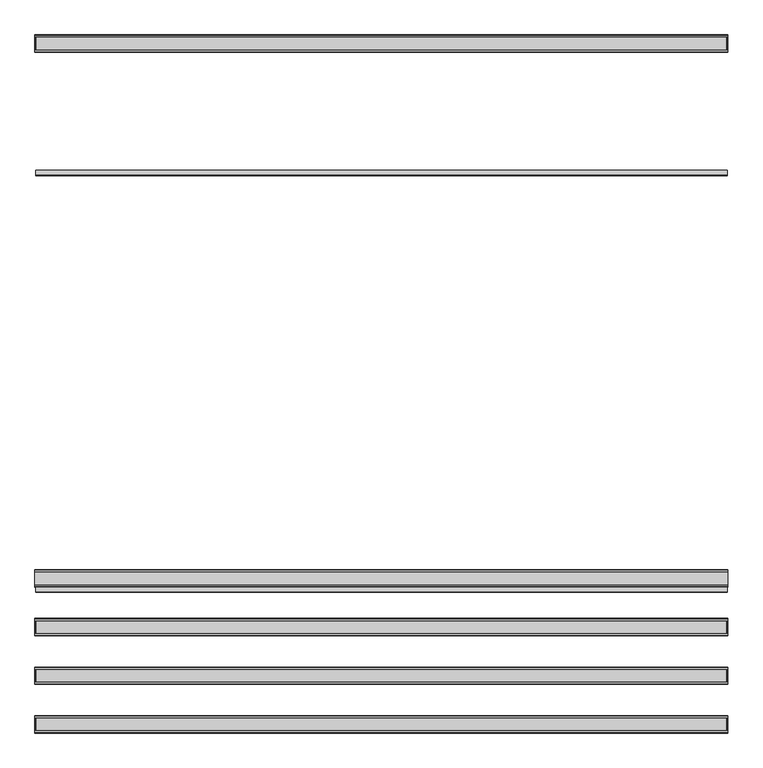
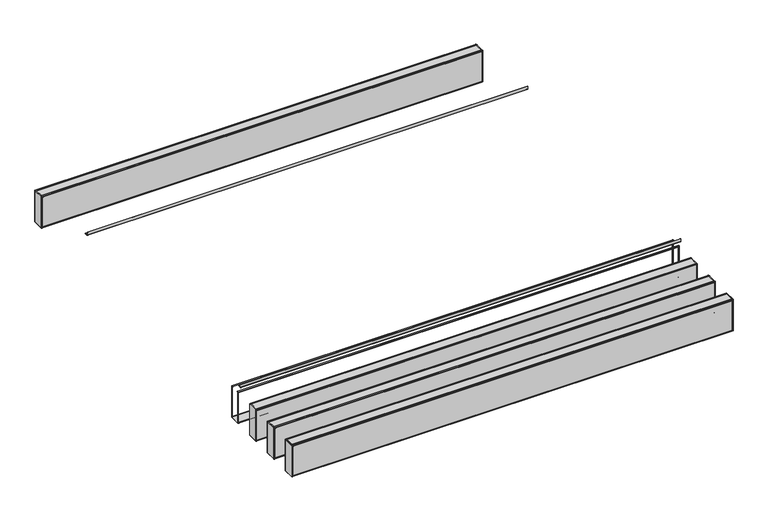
"""IFC4 building model written with IfcOpenShell, lengths in millimetres: proxy geometry, durlum_POLYLAM_KS : durlum_POLYLAM-KS/-S 100 RV-L6."""

from ifc_helpers import new_model, si_unit, point, frame, frame_2d, origin, place, context, project, spatial, polyline, circle_curve, trimmed, segment, composite_curve, outline, extrude, source, transform, mapped, element, save
from ifc_brep_helpers import plane_surface, cylinder_surface, advanced_brep


def generic_models_40e4f3ba(model_context):
    return source(origin(), model_context, "Body", "SolidModel", [
        advanced_brep(
        [(1995.0, -1072.0, 1990.9), (1995.0, -1082.0, 1990.9), (1995.0, -1082.0, 1990.0604454), (1995.0, -1071.0, 1990.0604454), (1995.0, -1071.0, 1691.9), (1995.0, -1169.0, 1691.9), (1995.0, -1169.0, 1989.8155735), (1995.0, -1158.0, 1989.8155735), (1995.0, -1158.0, 1990.9), (1995.0, -1168.0, 1990.9), (1995.0, -1170.0, 1988.9), (1995.0, -1170.0, 1692.9), (1995.0, -1168.0, 1690.9), (1995.0, -1072.0, 1690.9), (1995.0, -1070.0, 1692.9), (1995.0, -1070.0, 1988.9), (-1995.0, -1072.0, 1990.9), (-1995.0, -1070.0, 1988.9), (-1995.0, -1070.0, 1692.9), (-1995.0, -1072.0, 1690.9), (-1995.0, -1168.0, 1690.9), (-1995.0, -1170.0, 1692.9), (-1995.0, -1170.0, 1988.9), (-1995.0, -1168.0, 1990.9), (-1995.0, -1158.0, 1990.9), (-1995.0, -1158.0, 1989.8155735), (-1995.0, -1169.0, 1989.8155735), (-1995.0, -1169.0, 1691.9), (-1995.0, -1071.0, 1691.9), (-1995.0, -1071.0, 1990.0604454), (-1995.0, -1082.0, 1990.0604454), (-1995.0, -1082.0, 1990.9), (-1986.5, -1071.0, 1982.4), (1986.5, -1071.0, 1982.4), (1986.5, -1071.0, 1699.4), (-1986.5, -1071.0, 1699.4), (1986.5, -1169.0, 1982.4), (-1986.5, -1169.0, 1982.4), (-1986.5, -1169.0, 1699.4), (1986.5, -1169.0, 1699.4), (-1986.5, -1170.0, 1982.4), (1986.5, -1170.0, 1982.4), (1986.5, -1170.0, 1699.4), (-1986.5, -1170.0, 1699.4), (1986.5, -1070.0, 1982.4), (-1986.5, -1070.0, 1982.4), (-1986.5, -1070.0, 1699.4), (1986.5, -1070.0, 1699.4)],
        [
            (0, 1),
            (1, 2),
            (2, 3),
            (3, 4),
            (4, 5),
            (5, 6),
            (6, 7),
            (7, 8),
            (8, 9),
            (9, 10, circle_curve(frame((1995.0, -1168.0, 1988.9), z_axis=(1.0, 0.0, 0.0), x_axis=(0.0, 1.0, 0.0)), 2.0)),
            (10, 11),
            (11, 12, circle_curve(frame((1995.0, -1168.0, 1692.9), z_axis=(1.0, 0.0, 0.0), x_axis=(0.0, 1.0, 0.0)), 2.0)),
            (12, 13),
            (13, 14, circle_curve(frame((1995.0, -1072.0, 1692.9), z_axis=(1.0, 0.0, 0.0), x_axis=(0.0, 1.0, 0.0)), 2.0)),
            (14, 15),
            (15, 0, circle_curve(frame((1995.0, -1072.0, 1988.9), z_axis=(1.0, 0.0, 0.0), x_axis=(0.0, 1.0, 0.0)), 2.0)),
            (16, 17, circle_curve(frame((-1995.0, -1072.0, 1988.9), z_axis=(-1.0, 0.0, 0.0), x_axis=(0.0, 1.0, 0.0)), 2.0)),
            (17, 18),
            (18, 19, circle_curve(frame((-1995.0, -1072.0, 1692.9), z_axis=(-1.0, 0.0, 0.0), x_axis=(0.0, 1.0, 0.0)), 2.0)),
            (19, 20),
            (20, 21, circle_curve(frame((-1995.0, -1168.0, 1692.9), z_axis=(-1.0, 0.0, 0.0), x_axis=(0.0, 1.0, 0.0)), 2.0)),
            (21, 22),
            (22, 23, circle_curve(frame((-1995.0, -1168.0, 1988.9), z_axis=(-1.0, 0.0, 0.0), x_axis=(0.0, 1.0, 0.0)), 2.0)),
            (23, 24),
            (24, 25),
            (25, 26),
            (26, 27),
            (27, 28),
            (28, 29),
            (29, 30),
            (30, 31),
            (31, 16),
            (0, 16),
            (31, 1),
            (30, 2),
            (29, 3),
            (28, 4),
            (32, 33),
            (33, 34),
            (34, 35),
            (35, 32),
            (27, 5),
            (26, 6),
            (36, 37),
            (37, 38),
            (38, 39),
            (39, 36),
            (25, 7),
            (24, 8),
            (23, 9),
            (10, 22),
            (21, 11),
            (40, 41),
            (41, 42),
            (42, 43),
            (43, 40),
            (12, 20),
            (19, 13),
            (14, 18),
            (17, 15),
            (44, 45),
            (45, 46),
            (46, 47),
            (47, 44),
            (44, 33),
            (32, 45),
            (36, 41),
            (40, 37),
            (35, 46),
            (43, 38),
            (34, 47),
            (42, 39),
        ],
        [
            plane_surface(frame((1995.0, -1082.0, 1990.9), z_axis=(1.0, 0.0, 0.0), x_axis=(0.0, -1.0, 0.0))),
            plane_surface(frame((-1995.0, -1082.0, 1990.9), z_axis=(-1.0, 0.0, 0.0), x_axis=(0.0, 1.0, 0.0))),
            plane_surface(frame((1995.0, -1072.0, 1990.9), z_axis=(0.0, 0.0, 1.0), x_axis=(-1.0, 0.0, 0.0))),
            plane_surface(frame((1995.0, -1082.0, 1990.9), z_axis=(0.0, -1.0, 0.0), x_axis=(-1.0, 0.0, 0.0))),
            plane_surface(frame((1995.0, -1082.0, 1990.0604454), z_axis=(0.0, 0.0, -1.0), x_axis=(-1.0, 0.0, 0.0))),
            plane_surface(frame((1995.0, -1071.0, 1990.0604454), z_axis=(0.0, -1.0, 0.0), x_axis=(-1.0, 0.0, 0.0))),
            plane_surface(frame((1995.0, -1071.0, 1691.9), z_axis=(0.0, 0.0, 1.0), x_axis=(-1.0, 0.0, 0.0))),
            plane_surface(frame((1995.0, -1169.0, 1691.9), z_axis=(0.0, 1.0, 0.0), x_axis=(-1.0, 0.0, 0.0))),
            plane_surface(frame((1995.0, -1169.0, 1989.8155735), z_axis=(0.0, 0.0, -1.0), x_axis=(-1.0, 0.0, 0.0))),
            plane_surface(frame((1995.0, -1158.0, 1989.8155735), z_axis=(0.0, 1.0, 0.0), x_axis=(-1.0, 0.0, 0.0))),
            plane_surface(frame((1995.0, -1158.0, 1990.9), z_axis=(0.0, 0.0, 1.0), x_axis=(-1.0, 0.0, 0.0))),
            plane_surface(frame((1995.0, -1170.0, 1988.9), z_axis=(0.0, -1.0, 0.0), x_axis=(-1.0, 0.0, 0.0))),
            plane_surface(frame((1995.0, -1168.0, 1690.9), z_axis=(0.0, 0.0, -1.0), x_axis=(-1.0, 0.0, 0.0))),
            plane_surface(frame((1995.0, -1070.0, 1692.9), z_axis=(0.0, 1.0, 0.0), x_axis=(-1.0, 0.0, 0.0))),
            cylinder_surface(frame((-1995.0, -1168.0, 1988.9), z_axis=(1.0, 0.0, 0.0), x_axis=(0.0, 1.0, 0.0)), 2.0),
            cylinder_surface(frame((-1995.0, -1168.0, 1692.9), z_axis=(1.0, 0.0, 0.0), x_axis=(0.0, 1.0, 0.0)), 2.0),
            cylinder_surface(frame((-1995.0, -1072.0, 1692.9), z_axis=(1.0, 0.0, 0.0), x_axis=(0.0, 1.0, 0.0)), 2.0),
            cylinder_surface(frame((-1995.0, -1072.0, 1988.9), z_axis=(1.0, 0.0, 0.0), x_axis=(0.0, 1.0, 0.0)), 2.0),
            plane_surface(frame((1986.5, -1170.0, 1982.4), z_axis=(0.0, 0.0, -1.0), x_axis=(0.0, 1.0, 0.0))),
            plane_surface(frame((-1986.5, -1170.0, 1982.4), z_axis=(1.0, 0.0, 0.0), x_axis=(0.0, 1.0, 0.0))),
            plane_surface(frame((-1986.5, -1170.0, 1699.4), z_axis=(0.0, 0.0, 1.0), x_axis=(0.0, 1.0, 0.0))),
            plane_surface(frame((1986.5, -1170.0, 1699.4), z_axis=(-1.0, 0.0, 0.0), x_axis=(0.0, 1.0, 0.0))),
        ],
        [
            (0, [[1, 2, 3, 4, 5, 6, 7, 8, 9, 10, 11, 12, 13, 14, 15, 16]]),
            (1, [[17, 18, 19, 20, 21, 22, 23, 24, 25, 26, 27, 28, 29, 30, 31, 32]]),
            (2, [[-1, 33, -32, 34]]),
            (3, [[-2, -34, -31, 35]]),
            (4, [[-3, -35, -30, 36]]),
            (5, [[-4, -36, -29, 37], [38, 39, 40, 41]]),
            (6, [[-5, -37, -28, 42]]),
            (7, [[-6, -42, -27, 43], [44, 45, 46, 47]]),
            (8, [[-7, -43, -26, 48]]),
            (9, [[-8, -48, -25, 49]]),
            (10, [[-9, -49, -24, 50]]),
            (11, [[-11, 51, -22, 52], [53, 54, 55, 56]]),
            (12, [[-13, 57, -20, 58]]),
            (13, [[-15, 59, -18, 60], [61, 62, 63, 64]]),
            (14, [[-10, -50, -23, -51]]),
            (15, [[-12, -52, -21, -57]]),
            (16, [[-14, -58, -19, -59]]),
            (17, [[-16, -60, -17, -33]]),
            (18, [[65, -38, 66, -61]]),
            (18, [[67, -53, 68, -44]]),
            (19, [[-66, -41, 69, -62]]),
            (19, [[-68, -56, 70, -45]]),
            (20, [[-69, -40, 71, -63]]),
            (20, [[-70, -55, 72, -46]]),
            (21, [[-65, -64, -71, -39]]),
            (21, [[-67, -47, -72, -54]]),
        ],
    ),
        extrude(outline(polyline([(1993.0, -1351.0), (1995.0, -1351.0), (1995.0, -1449.0), (1993.0, -1449.0), (1993.0, -1351.0)])), frame((0.0, 0.0, 1691.9), z_axis=(0.0, 0.0, 1.0), x_axis=(1.0, 0.0, 0.0)), (0.0, 0.0, 1.0), 298.1604454),
        extrude(outline(polyline([(-1995.0, -1351.0), (-1993.0, -1351.0), (-1993.0, -1449.0), (-1995.0, -1449.0), (-1995.0, -1351.0)])), frame((0.0, 0.0, 1691.9), z_axis=(0.0, 0.0, 1.0), x_axis=(1.0, 0.0, 0.0)), (0.0, 0.0, 1.0), 298.1604454),
        extrude(outline(polyline([(1986.5, -1351.0), (1986.5, -1449.0), (-1986.5, -1449.0), (-1986.5, -1351.0), (1986.5, -1351.0)])), frame((0.0, 0.0, 1691.9), z_axis=(0.0, 0.0, 1.0), x_axis=(1.0, 0.0, 0.0)), (0.0, 0.0, 1.0), 298.0),
        extrude(outline(polyline([(1986.5, -1351.0), (-1986.5, -1351.0), (-1986.5, -1350.0), (1986.5, -1350.0), (1986.5, -1351.0)])), frame((0.0, 0.0, 1699.4), z_axis=(0.0, 0.0, 1.0), x_axis=(1.0, 0.0, 0.0)), (0.0, 0.0, 1.0), 283.0),
        extrude(outline(polyline([(1986.5, -1450.0), (-1986.5, -1450.0), (-1986.5, -1449.0), (1986.5, -1449.0), (1986.5, -1450.0)])), frame((0.0, 0.0, 1699.4), z_axis=(0.0, 0.0, 1.0), x_axis=(1.0, 0.0, 0.0)), (0.0, 0.0, 1.0), 283.0),
        advanced_brep(
        [(1995.0, -1352.0, 1990.9), (1995.0, -1362.0, 1990.9), (1995.0, -1362.0, 1990.0604454), (1995.0, -1351.0, 1990.0604454), (1995.0, -1351.0, 1691.9), (1995.0, -1449.0, 1691.9), (1995.0, -1449.0, 1989.8155735), (1995.0, -1438.0, 1989.8155735), (1995.0, -1438.0, 1990.9), (1995.0, -1448.0, 1990.9), (1995.0, -1450.0, 1988.9), (1995.0, -1450.0, 1692.9), (1995.0, -1448.0, 1690.9), (1995.0, -1352.0, 1690.9), (1995.0, -1350.0, 1692.9), (1995.0, -1350.0, 1988.9), (-1995.0, -1352.0, 1990.9), (-1995.0, -1350.0, 1988.9), (-1995.0, -1350.0, 1692.9), (-1995.0, -1352.0, 1690.9), (-1995.0, -1448.0, 1690.9), (-1995.0, -1450.0, 1692.9), (-1995.0, -1450.0, 1988.9), (-1995.0, -1448.0, 1990.9), (-1995.0, -1438.0, 1990.9), (-1995.0, -1438.0, 1989.8155735), (-1995.0, -1449.0, 1989.8155735), (-1995.0, -1449.0, 1691.9), (-1995.0, -1351.0, 1691.9), (-1995.0, -1351.0, 1990.0604454), (-1995.0, -1362.0, 1990.0604454), (-1995.0, -1362.0, 1990.9), (-1986.5, -1351.0, 1982.4), (1986.5, -1351.0, 1982.4), (1986.5, -1351.0, 1699.4), (-1986.5, -1351.0, 1699.4), (1986.5, -1449.0, 1982.4), (-1986.5, -1449.0, 1982.4), (-1986.5, -1449.0, 1699.4), (1986.5, -1449.0, 1699.4), (-1986.5, -1450.0, 1982.4), (1986.5, -1450.0, 1982.4), (1986.5, -1450.0, 1699.4), (-1986.5, -1450.0, 1699.4), (1986.5, -1350.0, 1982.4), (-1986.5, -1350.0, 1982.4), (-1986.5, -1350.0, 1699.4), (1986.5, -1350.0, 1699.4)],
        [
            (0, 1),
            (1, 2),
            (2, 3),
            (3, 4),
            (4, 5),
            (5, 6),
            (6, 7),
            (7, 8),
            (8, 9),
            (9, 10, circle_curve(frame((1995.0, -1448.0, 1988.9), z_axis=(1.0, 0.0, 0.0), x_axis=(0.0, 1.0, 0.0)), 2.0)),
            (10, 11),
            (11, 12, circle_curve(frame((1995.0, -1448.0, 1692.9), z_axis=(1.0, 0.0, 0.0), x_axis=(0.0, 1.0, 0.0)), 2.0)),
            (12, 13),
            (13, 14, circle_curve(frame((1995.0, -1352.0, 1692.9), z_axis=(1.0, 0.0, 0.0), x_axis=(0.0, 1.0, 0.0)), 2.0)),
            (14, 15),
            (15, 0, circle_curve(frame((1995.0, -1352.0, 1988.9), z_axis=(1.0, 0.0, 0.0), x_axis=(0.0, 1.0, 0.0)), 2.0)),
            (16, 17, circle_curve(frame((-1995.0, -1352.0, 1988.9), z_axis=(-1.0, 0.0, 0.0), x_axis=(0.0, 1.0, 0.0)), 2.0)),
            (17, 18),
            (18, 19, circle_curve(frame((-1995.0, -1352.0, 1692.9), z_axis=(-1.0, 0.0, 0.0), x_axis=(0.0, 1.0, 0.0)), 2.0)),
            (19, 20),
            (20, 21, circle_curve(frame((-1995.0, -1448.0, 1692.9), z_axis=(-1.0, 0.0, 0.0), x_axis=(0.0, 1.0, 0.0)), 2.0)),
            (21, 22),
            (22, 23, circle_curve(frame((-1995.0, -1448.0, 1988.9), z_axis=(-1.0, 0.0, 0.0), x_axis=(0.0, 1.0, 0.0)), 2.0)),
            (23, 24),
            (24, 25),
            (25, 26),
            (26, 27),
            (27, 28),
            (28, 29),
            (29, 30),
            (30, 31),
            (31, 16),
            (0, 16),
            (31, 1),
            (30, 2),
            (29, 3),
            (28, 4),
            (32, 33),
            (33, 34),
            (34, 35),
            (35, 32),
            (27, 5),
            (26, 6),
            (36, 37),
            (37, 38),
            (38, 39),
            (39, 36),
            (25, 7),
            (24, 8),
            (23, 9),
            (10, 22),
            (21, 11),
            (40, 41),
            (41, 42),
            (42, 43),
            (43, 40),
            (12, 20),
            (19, 13),
            (14, 18),
            (17, 15),
            (44, 45),
            (45, 46),
            (46, 47),
            (47, 44),
            (44, 33),
            (32, 45),
            (36, 41),
            (40, 37),
            (35, 46),
            (43, 38),
            (34, 47),
            (42, 39),
        ],
        [
            plane_surface(frame((1995.0, -1362.0, 1990.9), z_axis=(1.0, 0.0, 0.0), x_axis=(0.0, -1.0, 0.0))),
            plane_surface(frame((-1995.0, -1362.0, 1990.9), z_axis=(-1.0, 0.0, 0.0), x_axis=(0.0, 1.0, 0.0))),
            plane_surface(frame((1995.0, -1352.0, 1990.9), z_axis=(0.0, 0.0, 1.0), x_axis=(-1.0, 0.0, 0.0))),
            plane_surface(frame((1995.0, -1362.0, 1990.9), z_axis=(0.0, -1.0, 0.0), x_axis=(-1.0, 0.0, 0.0))),
            plane_surface(frame((1995.0, -1362.0, 1990.0604454), z_axis=(0.0, 0.0, -1.0), x_axis=(-1.0, 0.0, 0.0))),
            plane_surface(frame((1995.0, -1351.0, 1990.0604454), z_axis=(0.0, -1.0, 0.0), x_axis=(-1.0, 0.0, 0.0))),
            plane_surface(frame((1995.0, -1351.0, 1691.9), z_axis=(0.0, 0.0, 1.0), x_axis=(-1.0, 0.0, 0.0))),
            plane_surface(frame((1995.0, -1449.0, 1691.9), z_axis=(0.0, 1.0, 0.0), x_axis=(-1.0, 0.0, 0.0))),
            plane_surface(frame((1995.0, -1449.0, 1989.8155735), z_axis=(0.0, 0.0, -1.0), x_axis=(-1.0, 0.0, 0.0))),
            plane_surface(frame((1995.0, -1438.0, 1989.8155735), z_axis=(0.0, 1.0, 0.0), x_axis=(-1.0, 0.0, 0.0))),
            plane_surface(frame((1995.0, -1438.0, 1990.9), z_axis=(0.0, 0.0, 1.0), x_axis=(-1.0, 0.0, 0.0))),
            plane_surface(frame((1995.0, -1450.0, 1988.9), z_axis=(0.0, -1.0, 0.0), x_axis=(-1.0, 0.0, 0.0))),
            plane_surface(frame((1995.0, -1448.0, 1690.9), z_axis=(0.0, 0.0, -1.0), x_axis=(-1.0, 0.0, 0.0))),
            plane_surface(frame((1995.0, -1350.0, 1692.9), z_axis=(0.0, 1.0, 0.0), x_axis=(-1.0, 0.0, 0.0))),
            cylinder_surface(frame((-1995.0, -1448.0, 1988.9), z_axis=(1.0, 0.0, 0.0), x_axis=(0.0, 1.0, 0.0)), 2.0),
            cylinder_surface(frame((-1995.0, -1448.0, 1692.9), z_axis=(1.0, 0.0, 0.0), x_axis=(0.0, 1.0, 0.0)), 2.0),
            cylinder_surface(frame((-1995.0, -1352.0, 1692.9), z_axis=(1.0, 0.0, 0.0), x_axis=(0.0, 1.0, 0.0)), 2.0),
            cylinder_surface(frame((-1995.0, -1352.0, 1988.9), z_axis=(1.0, 0.0, 0.0), x_axis=(0.0, 1.0, 0.0)), 2.0),
            plane_surface(frame((1986.5, -1450.0, 1982.4), z_axis=(0.0, 0.0, -1.0), x_axis=(0.0, 1.0, 0.0))),
            plane_surface(frame((-1986.5, -1450.0, 1982.4), z_axis=(1.0, 0.0, 0.0), x_axis=(0.0, 1.0, 0.0))),
            plane_surface(frame((-1986.5, -1450.0, 1699.4), z_axis=(0.0, 0.0, 1.0), x_axis=(0.0, 1.0, 0.0))),
            plane_surface(frame((1986.5, -1450.0, 1699.4), z_axis=(-1.0, 0.0, 0.0), x_axis=(0.0, 1.0, 0.0))),
        ],
        [
            (0, [[1, 2, 3, 4, 5, 6, 7, 8, 9, 10, 11, 12, 13, 14, 15, 16]]),
            (1, [[17, 18, 19, 20, 21, 22, 23, 24, 25, 26, 27, 28, 29, 30, 31, 32]]),
            (2, [[-1, 33, -32, 34]]),
            (3, [[-2, -34, -31, 35]]),
            (4, [[-3, -35, -30, 36]]),
            (5, [[-4, -36, -29, 37], [38, 39, 40, 41]]),
            (6, [[-5, -37, -28, 42]]),
            (7, [[-6, -42, -27, 43], [44, 45, 46, 47]]),
            (8, [[-7, -43, -26, 48]]),
            (9, [[-8, -48, -25, 49]]),
            (10, [[-9, -49, -24, 50]]),
            (11, [[-11, 51, -22, 52], [53, 54, 55, 56]]),
            (12, [[-13, 57, -20, 58]]),
            (13, [[-15, 59, -18, 60], [61, 62, 63, 64]]),
            (14, [[-10, -50, -23, -51]]),
            (15, [[-12, -52, -21, -57]]),
            (16, [[-14, -58, -19, -59]]),
            (17, [[-16, -60, -17, -33]]),
            (18, [[65, -38, 66, -61]]),
            (18, [[67, -53, 68, -44]]),
            (19, [[-66, -41, 69, -62]]),
            (19, [[-68, -56, 70, -45]]),
            (20, [[-69, -40, 71, -63]]),
            (20, [[-70, -55, 72, -46]]),
            (21, [[-65, -64, -71, -39]]),
            (21, [[-67, -47, -72, -54]]),
        ],
    ),
        extrude(outline(polyline([(1993.0, -1631.0), (1995.0, -1631.0), (1995.0, -1729.0), (1993.0, -1729.0), (1993.0, -1631.0)])), frame((0.0, 0.0, 1691.9), z_axis=(0.0, 0.0, 1.0), x_axis=(1.0, 0.0, 0.0)), (0.0, 0.0, 1.0), 298.1604454),
        extrude(outline(polyline([(-1995.0, -1631.0), (-1993.0, -1631.0), (-1993.0, -1729.0), (-1995.0, -1729.0), (-1995.0, -1631.0)])), frame((0.0, 0.0, 1691.9), z_axis=(0.0, 0.0, 1.0), x_axis=(1.0, 0.0, 0.0)), (0.0, 0.0, 1.0), 298.1604454),
        extrude(outline(polyline([(1986.5, -1631.0), (1986.5, -1729.0), (-1986.5, -1729.0), (-1986.5, -1631.0), (1986.5, -1631.0)])), frame((0.0, 0.0, 1691.9), z_axis=(0.0, 0.0, 1.0), x_axis=(1.0, 0.0, 0.0)), (0.0, 0.0, 1.0), 298.0),
        extrude(outline(polyline([(1986.5, -1631.0), (-1986.5, -1631.0), (-1986.5, -1630.0), (1986.5, -1630.0), (1986.5, -1631.0)])), frame((0.0, 0.0, 1699.4), z_axis=(0.0, 0.0, 1.0), x_axis=(1.0, 0.0, 0.0)), (0.0, 0.0, 1.0), 283.0),
        extrude(outline(polyline([(1986.5, -1730.0), (-1986.5, -1730.0), (-1986.5, -1729.0), (1986.5, -1729.0), (1986.5, -1730.0)])), frame((0.0, 0.0, 1699.4), z_axis=(0.0, 0.0, 1.0), x_axis=(1.0, 0.0, 0.0)), (0.0, 0.0, 1.0), 283.0),
        advanced_brep(
        [(1995.0, -1632.0, 1990.9), (1995.0, -1642.0, 1990.9), (1995.0, -1642.0, 1990.0604454), (1995.0, -1631.0, 1990.0604454), (1995.0, -1631.0, 1691.9), (1995.0, -1729.0, 1691.9), (1995.0, -1729.0, 1989.8155735), (1995.0, -1718.0, 1989.8155735), (1995.0, -1718.0, 1990.9), (1995.0, -1728.0, 1990.9), (1995.0, -1730.0, 1988.9), (1995.0, -1730.0, 1692.9), (1995.0, -1728.0, 1690.9), (1995.0, -1632.0, 1690.9), (1995.0, -1630.0, 1692.9), (1995.0, -1630.0, 1988.9), (-1995.0, -1632.0, 1990.9), (-1995.0, -1630.0, 1988.9), (-1995.0, -1630.0, 1692.9), (-1995.0, -1632.0, 1690.9), (-1995.0, -1728.0, 1690.9), (-1995.0, -1730.0, 1692.9), (-1995.0, -1730.0, 1988.9), (-1995.0, -1728.0, 1990.9), (-1995.0, -1718.0, 1990.9), (-1995.0, -1718.0, 1989.8155735), (-1995.0, -1729.0, 1989.8155735), (-1995.0, -1729.0, 1691.9), (-1995.0, -1631.0, 1691.9), (-1995.0, -1631.0, 1990.0604454), (-1995.0, -1642.0, 1990.0604454), (-1995.0, -1642.0, 1990.9), (-1986.5, -1631.0, 1982.4), (1986.5, -1631.0, 1982.4), (1986.5, -1631.0, 1699.4), (-1986.5, -1631.0, 1699.4), (1986.5, -1729.0, 1982.4), (-1986.5, -1729.0, 1982.4), (-1986.5, -1729.0, 1699.4), (1986.5, -1729.0, 1699.4), (-1986.5, -1730.0, 1982.4), (1986.5, -1730.0, 1982.4), (1986.5, -1730.0, 1699.4), (-1986.5, -1730.0, 1699.4), (1986.5, -1630.0, 1982.4), (-1986.5, -1630.0, 1982.4), (-1986.5, -1630.0, 1699.4), (1986.5, -1630.0, 1699.4)],
        [
            (0, 1),
            (1, 2),
            (2, 3),
            (3, 4),
            (4, 5),
            (5, 6),
            (6, 7),
            (7, 8),
            (8, 9),
            (9, 10, circle_curve(frame((1995.0, -1728.0, 1988.9), z_axis=(1.0, 0.0, 0.0), x_axis=(0.0, 1.0, 0.0)), 2.0)),
            (10, 11),
            (11, 12, circle_curve(frame((1995.0, -1728.0, 1692.9), z_axis=(1.0, 0.0, 0.0), x_axis=(0.0, 1.0, 0.0)), 2.0)),
            (12, 13),
            (13, 14, circle_curve(frame((1995.0, -1632.0, 1692.9), z_axis=(1.0, 0.0, 0.0), x_axis=(0.0, 1.0, 0.0)), 2.0)),
            (14, 15),
            (15, 0, circle_curve(frame((1995.0, -1632.0, 1988.9), z_axis=(1.0, 0.0, 0.0), x_axis=(0.0, 1.0, 0.0)), 2.0)),
            (16, 17, circle_curve(frame((-1995.0, -1632.0, 1988.9), z_axis=(-1.0, 0.0, 0.0), x_axis=(0.0, 1.0, 0.0)), 2.0)),
            (17, 18),
            (18, 19, circle_curve(frame((-1995.0, -1632.0, 1692.9), z_axis=(-1.0, 0.0, 0.0), x_axis=(0.0, 1.0, 0.0)), 2.0)),
            (19, 20),
            (20, 21, circle_curve(frame((-1995.0, -1728.0, 1692.9), z_axis=(-1.0, 0.0, 0.0), x_axis=(0.0, 1.0, 0.0)), 2.0)),
            (21, 22),
            (22, 23, circle_curve(frame((-1995.0, -1728.0, 1988.9), z_axis=(-1.0, 0.0, 0.0), x_axis=(0.0, 1.0, 0.0)), 2.0)),
            (23, 24),
            (24, 25),
            (25, 26),
            (26, 27),
            (27, 28),
            (28, 29),
            (29, 30),
            (30, 31),
            (31, 16),
            (0, 16),
            (31, 1),
            (30, 2),
            (29, 3),
            (28, 4),
            (32, 33),
            (33, 34),
            (34, 35),
            (35, 32),
            (27, 5),
            (26, 6),
            (36, 37),
            (37, 38),
            (38, 39),
            (39, 36),
            (25, 7),
            (24, 8),
            (23, 9),
            (10, 22),
            (21, 11),
            (40, 41),
            (41, 42),
            (42, 43),
            (43, 40),
            (12, 20),
            (19, 13),
            (14, 18),
            (17, 15),
            (44, 45),
            (45, 46),
            (46, 47),
            (47, 44),
            (44, 33),
            (32, 45),
            (36, 41),
            (40, 37),
            (35, 46),
            (43, 38),
            (34, 47),
            (42, 39),
        ],
        [
            plane_surface(frame((1995.0, -1642.0, 1990.9), z_axis=(1.0, 0.0, 0.0), x_axis=(0.0, -1.0, 0.0))),
            plane_surface(frame((-1995.0, -1642.0, 1990.9), z_axis=(-1.0, 0.0, 0.0), x_axis=(0.0, 1.0, 0.0))),
            plane_surface(frame((1995.0, -1632.0, 1990.9), z_axis=(0.0, 0.0, 1.0), x_axis=(-1.0, 0.0, 0.0))),
            plane_surface(frame((1995.0, -1642.0, 1990.9), z_axis=(0.0, -1.0, 0.0), x_axis=(-1.0, 0.0, 0.0))),
            plane_surface(frame((1995.0, -1642.0, 1990.0604454), z_axis=(0.0, 0.0, -1.0), x_axis=(-1.0, 0.0, 0.0))),
            plane_surface(frame((1995.0, -1631.0, 1990.0604454), z_axis=(0.0, -1.0, 0.0), x_axis=(-1.0, 0.0, 0.0))),
            plane_surface(frame((1995.0, -1631.0, 1691.9), z_axis=(0.0, 0.0, 1.0), x_axis=(-1.0, 0.0, 0.0))),
            plane_surface(frame((1995.0, -1729.0, 1691.9), z_axis=(0.0, 1.0, 0.0), x_axis=(-1.0, 0.0, 0.0))),
            plane_surface(frame((1995.0, -1729.0, 1989.8155735), z_axis=(0.0, 0.0, -1.0), x_axis=(-1.0, 0.0, 0.0))),
            plane_surface(frame((1995.0, -1718.0, 1989.8155735), z_axis=(0.0, 1.0, 0.0), x_axis=(-1.0, 0.0, 0.0))),
            plane_surface(frame((1995.0, -1718.0, 1990.9), z_axis=(0.0, 0.0, 1.0), x_axis=(-1.0, 0.0, 0.0))),
            plane_surface(frame((1995.0, -1730.0, 1988.9), z_axis=(0.0, -1.0, 0.0), x_axis=(-1.0, 0.0, 0.0))),
            plane_surface(frame((1995.0, -1728.0, 1690.9), z_axis=(0.0, 0.0, -1.0), x_axis=(-1.0, 0.0, 0.0))),
            plane_surface(frame((1995.0, -1630.0, 1692.9), z_axis=(0.0, 1.0, 0.0), x_axis=(-1.0, 0.0, 0.0))),
            cylinder_surface(frame((-1995.0, -1728.0, 1988.9), z_axis=(1.0, 0.0, 0.0), x_axis=(0.0, 1.0, 0.0)), 2.0),
            cylinder_surface(frame((-1995.0, -1728.0, 1692.9), z_axis=(1.0, 0.0, 0.0), x_axis=(0.0, 1.0, 0.0)), 2.0),
            cylinder_surface(frame((-1995.0, -1632.0, 1692.9), z_axis=(1.0, 0.0, 0.0), x_axis=(0.0, 1.0, 0.0)), 2.0),
            cylinder_surface(frame((-1995.0, -1632.0, 1988.9), z_axis=(1.0, 0.0, 0.0), x_axis=(0.0, 1.0, 0.0)), 2.0),
            plane_surface(frame((1986.5, -1730.0, 1982.4), z_axis=(0.0, 0.0, -1.0), x_axis=(0.0, 1.0, 0.0))),
            plane_surface(frame((-1986.5, -1730.0, 1982.4), z_axis=(1.0, 0.0, 0.0), x_axis=(0.0, 1.0, 0.0))),
            plane_surface(frame((-1986.5, -1730.0, 1699.4), z_axis=(0.0, 0.0, 1.0), x_axis=(0.0, 1.0, 0.0))),
            plane_surface(frame((1986.5, -1730.0, 1699.4), z_axis=(-1.0, 0.0, 0.0), x_axis=(0.0, 1.0, 0.0))),
        ],
        [
            (0, [[1, 2, 3, 4, 5, 6, 7, 8, 9, 10, 11, 12, 13, 14, 15, 16]]),
            (1, [[17, 18, 19, 20, 21, 22, 23, 24, 25, 26, 27, 28, 29, 30, 31, 32]]),
            (2, [[-1, 33, -32, 34]]),
            (3, [[-2, -34, -31, 35]]),
            (4, [[-3, -35, -30, 36]]),
            (5, [[-4, -36, -29, 37], [38, 39, 40, 41]]),
            (6, [[-5, -37, -28, 42]]),
            (7, [[-6, -42, -27, 43], [44, 45, 46, 47]]),
            (8, [[-7, -43, -26, 48]]),
            (9, [[-8, -48, -25, 49]]),
            (10, [[-9, -49, -24, 50]]),
            (11, [[-11, 51, -22, 52], [53, 54, 55, 56]]),
            (12, [[-13, 57, -20, 58]]),
            (13, [[-15, 59, -18, 60], [61, 62, 63, 64]]),
            (14, [[-10, -50, -23, -51]]),
            (15, [[-12, -52, -21, -57]]),
            (16, [[-14, -58, -19, -59]]),
            (17, [[-16, -60, -17, -33]]),
            (18, [[65, -38, 66, -61]]),
            (18, [[67, -53, 68, -44]]),
            (19, [[-66, -41, 69, -62]]),
            (19, [[-68, -56, 70, -45]]),
            (20, [[-69, -40, 71, -63]]),
            (20, [[-70, -55, 72, -46]]),
            (21, [[-65, -64, -71, -39]]),
            (21, [[-67, -47, -72, -54]]),
        ],
    ),
        extrude(outline(polyline([(1993.0, 2009.0), (1995.0, 2009.0), (1995.0, 1911.0), (1993.0, 1911.0), (1993.0, 2009.0)])), frame((0.0, 0.0, 1691.9), z_axis=(0.0, 0.0, 1.0), x_axis=(1.0, 0.0, 0.0)), (0.0, 0.0, 1.0), 298.1604454),
        extrude(outline(polyline([(-1995.0, 2009.0), (-1993.0, 2009.0), (-1993.0, 1911.0), (-1995.0, 1911.0), (-1995.0, 2009.0)])), frame((0.0, 0.0, 1691.9), z_axis=(0.0, 0.0, 1.0), x_axis=(1.0, 0.0, 0.0)), (0.0, 0.0, 1.0), 298.1604454),
        extrude(outline(polyline([(1986.5, 2009.0), (1986.5, 1911.0), (-1986.5, 1911.0), (-1986.5, 2009.0), (1986.5, 2009.0)])), frame((0.0, 0.0, 1691.9), z_axis=(0.0, 0.0, 1.0), x_axis=(1.0, 0.0, 0.0)), (0.0, 0.0, 1.0), 298.0),
        extrude(outline(polyline([(1986.5, 2009.0), (-1986.5, 2009.0), (-1986.5, 2010.0), (1986.5, 2010.0), (1986.5, 2009.0)])), frame((0.0, 0.0, 1699.4), z_axis=(0.0, 0.0, 1.0), x_axis=(1.0, 0.0, 0.0)), (0.0, 0.0, 1.0), 283.0),
        extrude(outline(polyline([(1986.5, 1910.0), (-1986.5, 1910.0), (-1986.5, 1911.0), (1986.5, 1911.0), (1986.5, 1910.0)])), frame((0.0, 0.0, 1699.4), z_axis=(0.0, 0.0, 1.0), x_axis=(1.0, 0.0, 0.0)), (0.0, 0.0, 1.0), 283.0),
        advanced_brep(
        [(1995.0, 2008.0, 1990.9), (1995.0, 1998.0, 1990.9), (1995.0, 1998.0, 1990.0604454), (1995.0, 2009.0, 1990.0604454), (1995.0, 2009.0, 1691.9), (1995.0, 1911.0, 1691.9), (1995.0, 1911.0, 1989.8155735), (1995.0, 1922.0, 1989.8155735), (1995.0, 1922.0, 1990.9), (1995.0, 1912.0, 1990.9), (1995.0, 1910.0, 1988.9), (1995.0, 1910.0, 1692.9), (1995.0, 1912.0, 1690.9), (1995.0, 2008.0, 1690.9), (1995.0, 2010.0, 1692.9), (1995.0, 2010.0, 1988.9), (-1995.0, 2008.0, 1990.9), (-1995.0, 2010.0, 1988.9), (-1995.0, 2010.0, 1692.9), (-1995.0, 2008.0, 1690.9), (-1995.0, 1912.0, 1690.9), (-1995.0, 1910.0, 1692.9), (-1995.0, 1910.0, 1988.9), (-1995.0, 1912.0, 1990.9), (-1995.0, 1922.0, 1990.9), (-1995.0, 1922.0, 1989.8155735), (-1995.0, 1911.0, 1989.8155735), (-1995.0, 1911.0, 1691.9), (-1995.0, 2009.0, 1691.9), (-1995.0, 2009.0, 1990.0604454), (-1995.0, 1998.0, 1990.0604454), (-1995.0, 1998.0, 1990.9), (-1986.5, 2009.0, 1982.4), (1986.5, 2009.0, 1982.4), (1986.5, 2009.0, 1699.4), (-1986.5, 2009.0, 1699.4), (1986.5, 1911.0, 1982.4), (-1986.5, 1911.0, 1982.4), (-1986.5, 1911.0, 1699.4), (1986.5, 1911.0, 1699.4), (-1986.5, 1910.0, 1982.4), (1986.5, 1910.0, 1982.4), (1986.5, 1910.0, 1699.4), (-1986.5, 1910.0, 1699.4), (1986.5, 2010.0, 1982.4), (-1986.5, 2010.0, 1982.4), (-1986.5, 2010.0, 1699.4), (1986.5, 2010.0, 1699.4)],
        [
            (0, 1),
            (1, 2),
            (2, 3),
            (3, 4),
            (4, 5),
            (5, 6),
            (6, 7),
            (7, 8),
            (8, 9),
            (9, 10, circle_curve(frame((1995.0, 1912.0, 1988.9), z_axis=(1.0, 0.0, 0.0), x_axis=(0.0, 1.0, 0.0)), 2.0)),
            (10, 11),
            (11, 12, circle_curve(frame((1995.0, 1912.0, 1692.9), z_axis=(1.0, 0.0, 0.0), x_axis=(0.0, 1.0, 0.0)), 2.0)),
            (12, 13),
            (13, 14, circle_curve(frame((1995.0, 2008.0, 1692.9), z_axis=(1.0, 0.0, 0.0), x_axis=(0.0, 1.0, 0.0)), 2.0)),
            (14, 15),
            (15, 0, circle_curve(frame((1995.0, 2008.0, 1988.9), z_axis=(1.0, 0.0, 0.0), x_axis=(0.0, 1.0, 0.0)), 2.0)),
            (16, 17, circle_curve(frame((-1995.0, 2008.0, 1988.9), z_axis=(-1.0, 0.0, 0.0), x_axis=(0.0, 1.0, 0.0)), 2.0)),
            (17, 18),
            (18, 19, circle_curve(frame((-1995.0, 2008.0, 1692.9), z_axis=(-1.0, 0.0, 0.0), x_axis=(0.0, 1.0, 0.0)), 2.0)),
            (19, 20),
            (20, 21, circle_curve(frame((-1995.0, 1912.0, 1692.9), z_axis=(-1.0, 0.0, 0.0), x_axis=(0.0, 1.0, 0.0)), 2.0)),
            (21, 22),
            (22, 23, circle_curve(frame((-1995.0, 1912.0, 1988.9), z_axis=(-1.0, 0.0, 0.0), x_axis=(0.0, 1.0, 0.0)), 2.0)),
            (23, 24),
            (24, 25),
            (25, 26),
            (26, 27),
            (27, 28),
            (28, 29),
            (29, 30),
            (30, 31),
            (31, 16),
            (0, 16),
            (31, 1),
            (30, 2),
            (29, 3),
            (28, 4),
            (32, 33),
            (33, 34),
            (34, 35),
            (35, 32),
            (27, 5),
            (26, 6),
            (36, 37),
            (37, 38),
            (38, 39),
            (39, 36),
            (25, 7),
            (24, 8),
            (23, 9),
            (10, 22),
            (21, 11),
            (40, 41),
            (41, 42),
            (42, 43),
            (43, 40),
            (12, 20),
            (19, 13),
            (14, 18),
            (17, 15),
            (44, 45),
            (45, 46),
            (46, 47),
            (47, 44),
            (44, 33),
            (32, 45),
            (36, 41),
            (40, 37),
            (35, 46),
            (43, 38),
            (34, 47),
            (42, 39),
        ],
        [
            plane_surface(frame((1995.0, 1998.0, 1990.9), z_axis=(1.0, 0.0, 0.0), x_axis=(0.0, -1.0, 0.0))),
            plane_surface(frame((-1995.0, 1998.0, 1990.9), z_axis=(-1.0, 0.0, 0.0), x_axis=(0.0, 1.0, 0.0))),
            plane_surface(frame((1995.0, 2008.0, 1990.9), z_axis=(0.0, 0.0, 1.0), x_axis=(-1.0, 0.0, 0.0))),
            plane_surface(frame((1995.0, 1998.0, 1990.9), z_axis=(0.0, -1.0, 0.0), x_axis=(-1.0, 0.0, 0.0))),
            plane_surface(frame((1995.0, 1998.0, 1990.0604454), z_axis=(0.0, 0.0, -1.0), x_axis=(-1.0, 0.0, 0.0))),
            plane_surface(frame((1995.0, 2009.0, 1990.0604454), z_axis=(0.0, -1.0, 0.0), x_axis=(-1.0, 0.0, 0.0))),
            plane_surface(frame((1995.0, 2009.0, 1691.9), z_axis=(0.0, 0.0, 1.0), x_axis=(-1.0, 0.0, 0.0))),
            plane_surface(frame((1995.0, 1911.0, 1691.9), z_axis=(0.0, 1.0, 0.0), x_axis=(-1.0, 0.0, 0.0))),
            plane_surface(frame((1995.0, 1911.0, 1989.8155735), z_axis=(0.0, 0.0, -1.0), x_axis=(-1.0, 0.0, 0.0))),
            plane_surface(frame((1995.0, 1922.0, 1989.8155735), z_axis=(0.0, 1.0, 0.0), x_axis=(-1.0, 0.0, 0.0))),
            plane_surface(frame((1995.0, 1922.0, 1990.9), z_axis=(0.0, 0.0, 1.0), x_axis=(-1.0, 0.0, 0.0))),
            plane_surface(frame((1995.0, 1910.0, 1988.9), z_axis=(0.0, -1.0, 0.0), x_axis=(-1.0, 0.0, 0.0))),
            plane_surface(frame((1995.0, 1912.0, 1690.9), z_axis=(0.0, 0.0, -1.0), x_axis=(-1.0, 0.0, 0.0))),
            plane_surface(frame((1995.0, 2010.0, 1692.9), z_axis=(0.0, 1.0, 0.0), x_axis=(-1.0, 0.0, 0.0))),
            cylinder_surface(frame((-1995.0, 1912.0, 1988.9), z_axis=(1.0, 0.0, 0.0), x_axis=(0.0, 1.0, 0.0)), 2.0),
            cylinder_surface(frame((-1995.0, 1912.0, 1692.9), z_axis=(1.0, 0.0, 0.0), x_axis=(0.0, 1.0, 0.0)), 2.0),
            cylinder_surface(frame((-1995.0, 2008.0, 1692.9), z_axis=(1.0, 0.0, 0.0), x_axis=(0.0, 1.0, 0.0)), 2.0),
            cylinder_surface(frame((-1995.0, 2008.0, 1988.9), z_axis=(1.0, 0.0, 0.0), x_axis=(0.0, 1.0, 0.0)), 2.0),
            plane_surface(frame((1986.5, 1910.0, 1982.4), z_axis=(0.0, 0.0, -1.0), x_axis=(0.0, 1.0, 0.0))),
            plane_surface(frame((-1986.5, 1910.0, 1982.4), z_axis=(1.0, 0.0, 0.0), x_axis=(0.0, 1.0, 0.0))),
            plane_surface(frame((-1986.5, 1910.0, 1699.4), z_axis=(0.0, 0.0, 1.0), x_axis=(0.0, 1.0, 0.0))),
            plane_surface(frame((1986.5, 1910.0, 1699.4), z_axis=(-1.0, 0.0, 0.0), x_axis=(0.0, 1.0, 0.0))),
        ],
        [
            (0, [[1, 2, 3, 4, 5, 6, 7, 8, 9, 10, 11, 12, 13, 14, 15, 16]]),
            (1, [[17, 18, 19, 20, 21, 22, 23, 24, 25, 26, 27, 28, 29, 30, 31, 32]]),
            (2, [[-1, 33, -32, 34]]),
            (3, [[-2, -34, -31, 35]]),
            (4, [[-3, -35, -30, 36]]),
            (5, [[-4, -36, -29, 37], [38, 39, 40, 41]]),
            (6, [[-5, -37, -28, 42]]),
            (7, [[-6, -42, -27, 43], [44, 45, 46, 47]]),
            (8, [[-7, -43, -26, 48]]),
            (9, [[-8, -48, -25, 49]]),
            (10, [[-9, -49, -24, 50]]),
            (11, [[-11, 51, -22, 52], [53, 54, 55, 56]]),
            (12, [[-13, 57, -20, 58]]),
            (13, [[-15, 59, -18, 60], [61, 62, 63, 64]]),
            (14, [[-10, -50, -23, -51]]),
            (15, [[-12, -52, -21, -57]]),
            (16, [[-14, -58, -19, -59]]),
            (17, [[-16, -60, -17, -33]]),
            (18, [[65, -38, 66, -61]]),
            (18, [[67, -53, 68, -44]]),
            (19, [[-66, -41, 69, -62]]),
            (19, [[-68, -56, 70, -45]]),
            (20, [[-69, -40, 71, -63]]),
            (20, [[-70, -55, 72, -46]]),
            (21, [[-65, -64, -71, -39]]),
            (21, [[-67, -47, -72, -54]]),
        ],
    ),
        extrude(outline(polyline([(1993.0, -1911.0), (1995.0, -1911.0), (1995.0, -2009.0), (1993.0, -2009.0), (1993.0, -1911.0)])), frame((0.0, 0.0, 1691.9), z_axis=(0.0, 0.0, 1.0), x_axis=(1.0, 0.0, 0.0)), (0.0, 0.0, 1.0), 298.1604454),
        extrude(outline(polyline([(-1995.0, -1911.0), (-1993.0, -1911.0), (-1993.0, -2009.0), (-1995.0, -2009.0), (-1995.0, -1911.0)])), frame((0.0, 0.0, 1691.9), z_axis=(0.0, 0.0, 1.0), x_axis=(1.0, 0.0, 0.0)), (0.0, 0.0, 1.0), 298.1604454),
        extrude(outline(polyline([(1986.5, -1911.0), (1986.5, -2009.0), (-1986.5, -2009.0), (-1986.5, -1911.0), (1986.5, -1911.0)])), frame((0.0, 0.0, 1691.9), z_axis=(0.0, 0.0, 1.0), x_axis=(1.0, 0.0, 0.0)), (0.0, 0.0, 1.0), 298.0),
        extrude(outline(polyline([(1986.5, -1911.0), (-1986.5, -1911.0), (-1986.5, -1910.0), (1986.5, -1910.0), (1986.5, -1911.0)])), frame((0.0, 0.0, 1699.4), z_axis=(0.0, 0.0, 1.0), x_axis=(1.0, 0.0, 0.0)), (0.0, 0.0, 1.0), 283.0),
        extrude(outline(polyline([(1986.5, -2010.0), (-1986.5, -2010.0), (-1986.5, -2009.0), (1986.5, -2009.0), (1986.5, -2010.0)])), frame((0.0, 0.0, 1699.4), z_axis=(0.0, 0.0, 1.0), x_axis=(1.0, 0.0, 0.0)), (0.0, 0.0, 1.0), 283.0),
        advanced_brep(
        [(1995.0, -1912.0, 1990.9), (1995.0, -1922.0, 1990.9), (1995.0, -1922.0, 1990.0604454), (1995.0, -1911.0, 1990.0604454), (1995.0, -1911.0, 1691.9), (1995.0, -2009.0, 1691.9), (1995.0, -2009.0, 1989.8155735), (1995.0, -1998.0, 1989.8155735), (1995.0, -1998.0, 1990.9), (1995.0, -2008.0, 1990.9), (1995.0, -2010.0, 1988.9), (1995.0, -2010.0, 1692.9), (1995.0, -2008.0, 1690.9), (1995.0, -1912.0, 1690.9), (1995.0, -1910.0, 1692.9), (1995.0, -1910.0, 1988.9), (-1995.0, -1912.0, 1990.9), (-1995.0, -1910.0, 1988.9), (-1995.0, -1910.0, 1692.9), (-1995.0, -1912.0, 1690.9), (-1995.0, -2008.0, 1690.9), (-1995.0, -2010.0, 1692.9), (-1995.0, -2010.0, 1988.9), (-1995.0, -2008.0, 1990.9), (-1995.0, -1998.0, 1990.9), (-1995.0, -1998.0, 1989.8155735), (-1995.0, -2009.0, 1989.8155735), (-1995.0, -2009.0, 1691.9), (-1995.0, -1911.0, 1691.9), (-1995.0, -1911.0, 1990.0604454), (-1995.0, -1922.0, 1990.0604454), (-1995.0, -1922.0, 1990.9), (-1986.5, -1911.0, 1982.4), (1986.5, -1911.0, 1982.4), (1986.5, -1911.0, 1699.4), (-1986.5, -1911.0, 1699.4), (1986.5, -2009.0, 1982.4), (-1986.5, -2009.0, 1982.4), (-1986.5, -2009.0, 1699.4), (1986.5, -2009.0, 1699.4), (-1986.5, -2010.0, 1982.4), (1986.5, -2010.0, 1982.4), (1986.5, -2010.0, 1699.4), (-1986.5, -2010.0, 1699.4), (1986.5, -1910.0, 1982.4), (-1986.5, -1910.0, 1982.4), (-1986.5, -1910.0, 1699.4), (1986.5, -1910.0, 1699.4)],
        [
            (0, 1),
            (1, 2),
            (2, 3),
            (3, 4),
            (4, 5),
            (5, 6),
            (6, 7),
            (7, 8),
            (8, 9),
            (9, 10, circle_curve(frame((1995.0, -2008.0, 1988.9), z_axis=(1.0, 0.0, 0.0), x_axis=(0.0, 1.0, 0.0)), 2.0)),
            (10, 11),
            (11, 12, circle_curve(frame((1995.0, -2008.0, 1692.9), z_axis=(1.0, 0.0, 0.0), x_axis=(0.0, 1.0, 0.0)), 2.0)),
            (12, 13),
            (13, 14, circle_curve(frame((1995.0, -1912.0, 1692.9), z_axis=(1.0, 0.0, 0.0), x_axis=(0.0, 1.0, 0.0)), 2.0)),
            (14, 15),
            (15, 0, circle_curve(frame((1995.0, -1912.0, 1988.9), z_axis=(1.0, 0.0, 0.0), x_axis=(0.0, 1.0, 0.0)), 2.0)),
            (16, 17, circle_curve(frame((-1995.0, -1912.0, 1988.9), z_axis=(-1.0, 0.0, 0.0), x_axis=(0.0, 1.0, 0.0)), 2.0)),
            (17, 18),
            (18, 19, circle_curve(frame((-1995.0, -1912.0, 1692.9), z_axis=(-1.0, 0.0, 0.0), x_axis=(0.0, 1.0, 0.0)), 2.0)),
            (19, 20),
            (20, 21, circle_curve(frame((-1995.0, -2008.0, 1692.9), z_axis=(-1.0, 0.0, 0.0), x_axis=(0.0, 1.0, 0.0)), 2.0)),
            (21, 22),
            (22, 23, circle_curve(frame((-1995.0, -2008.0, 1988.9), z_axis=(-1.0, 0.0, 0.0), x_axis=(0.0, 1.0, 0.0)), 2.0)),
            (23, 24),
            (24, 25),
            (25, 26),
            (26, 27),
            (27, 28),
            (28, 29),
            (29, 30),
            (30, 31),
            (31, 16),
            (0, 16),
            (31, 1),
            (30, 2),
            (29, 3),
            (28, 4),
            (32, 33),
            (33, 34),
            (34, 35),
            (35, 32),
            (27, 5),
            (26, 6),
            (36, 37),
            (37, 38),
            (38, 39),
            (39, 36),
            (25, 7),
            (24, 8),
            (23, 9),
            (10, 22),
            (21, 11),
            (40, 41),
            (41, 42),
            (42, 43),
            (43, 40),
            (12, 20),
            (19, 13),
            (14, 18),
            (17, 15),
            (44, 45),
            (45, 46),
            (46, 47),
            (47, 44),
            (44, 33),
            (32, 45),
            (36, 41),
            (40, 37),
            (35, 46),
            (43, 38),
            (34, 47),
            (42, 39),
        ],
        [
            plane_surface(frame((1995.0, -1922.0, 1990.9), z_axis=(1.0, 0.0, 0.0), x_axis=(0.0, -1.0, 0.0))),
            plane_surface(frame((-1995.0, -1922.0, 1990.9), z_axis=(-1.0, 0.0, 0.0), x_axis=(0.0, 1.0, 0.0))),
            plane_surface(frame((1995.0, -1912.0, 1990.9), z_axis=(0.0, 0.0, 1.0), x_axis=(-1.0, 0.0, 0.0))),
            plane_surface(frame((1995.0, -1922.0, 1990.9), z_axis=(0.0, -1.0, 0.0), x_axis=(-1.0, 0.0, 0.0))),
            plane_surface(frame((1995.0, -1922.0, 1990.0604454), z_axis=(0.0, 0.0, -1.0), x_axis=(-1.0, 0.0, 0.0))),
            plane_surface(frame((1995.0, -1911.0, 1990.0604454), z_axis=(0.0, -1.0, 0.0), x_axis=(-1.0, 0.0, 0.0))),
            plane_surface(frame((1995.0, -1911.0, 1691.9), z_axis=(0.0, 0.0, 1.0), x_axis=(-1.0, 0.0, 0.0))),
            plane_surface(frame((1995.0, -2009.0, 1691.9), z_axis=(0.0, 1.0, 0.0), x_axis=(-1.0, 0.0, 0.0))),
            plane_surface(frame((1995.0, -2009.0, 1989.8155735), z_axis=(0.0, 0.0, -1.0), x_axis=(-1.0, 0.0, 0.0))),
            plane_surface(frame((1995.0, -1998.0, 1989.8155735), z_axis=(0.0, 1.0, 0.0), x_axis=(-1.0, 0.0, 0.0))),
            plane_surface(frame((1995.0, -1998.0, 1990.9), z_axis=(0.0, 0.0, 1.0), x_axis=(-1.0, 0.0, 0.0))),
            plane_surface(frame((1995.0, -2010.0, 1988.9), z_axis=(0.0, -1.0, 0.0), x_axis=(-1.0, 0.0, 0.0))),
            plane_surface(frame((1995.0, -2008.0, 1690.9), z_axis=(0.0, 0.0, -1.0), x_axis=(-1.0, 0.0, 0.0))),
            plane_surface(frame((1995.0, -1910.0, 1692.9), z_axis=(0.0, 1.0, 0.0), x_axis=(-1.0, 0.0, 0.0))),
            cylinder_surface(frame((-1995.0, -2008.0, 1988.9), z_axis=(1.0, 0.0, 0.0), x_axis=(0.0, 1.0, 0.0)), 2.0),
            cylinder_surface(frame((-1995.0, -2008.0, 1692.9), z_axis=(1.0, 0.0, 0.0), x_axis=(0.0, 1.0, 0.0)), 2.0),
            cylinder_surface(frame((-1995.0, -1912.0, 1692.9), z_axis=(1.0, 0.0, 0.0), x_axis=(0.0, 1.0, 0.0)), 2.0),
            cylinder_surface(frame((-1995.0, -1912.0, 1988.9), z_axis=(1.0, 0.0, 0.0), x_axis=(0.0, 1.0, 0.0)), 2.0),
            plane_surface(frame((1986.5, -2010.0, 1982.4), z_axis=(0.0, 0.0, -1.0), x_axis=(0.0, 1.0, 0.0))),
            plane_surface(frame((-1986.5, -2010.0, 1982.4), z_axis=(1.0, 0.0, 0.0), x_axis=(0.0, 1.0, 0.0))),
            plane_surface(frame((-1986.5, -2010.0, 1699.4), z_axis=(0.0, 0.0, 1.0), x_axis=(0.0, 1.0, 0.0))),
            plane_surface(frame((1986.5, -2010.0, 1699.4), z_axis=(-1.0, 0.0, 0.0), x_axis=(0.0, 1.0, 0.0))),
        ],
        [
            (0, [[1, 2, 3, 4, 5, 6, 7, 8, 9, 10, 11, 12, 13, 14, 15, 16]]),
            (1, [[17, 18, 19, 20, 21, 22, 23, 24, 25, 26, 27, 28, 29, 30, 31, 32]]),
            (2, [[-1, 33, -32, 34]]),
            (3, [[-2, -34, -31, 35]]),
            (4, [[-3, -35, -30, 36]]),
            (5, [[-4, -36, -29, 37], [38, 39, 40, 41]]),
            (6, [[-5, -37, -28, 42]]),
            (7, [[-6, -42, -27, 43], [44, 45, 46, 47]]),
            (8, [[-7, -43, -26, 48]]),
            (9, [[-8, -48, -25, 49]]),
            (10, [[-9, -49, -24, 50]]),
            (11, [[-11, 51, -22, 52], [53, 54, 55, 56]]),
            (12, [[-13, 57, -20, 58]]),
            (13, [[-15, 59, -18, 60], [61, 62, 63, 64]]),
            (14, [[-10, -50, -23, -51]]),
            (15, [[-12, -52, -21, -57]]),
            (16, [[-14, -58, -19, -59]]),
            (17, [[-16, -60, -17, -33]]),
            (18, [[65, -38, 66, -61]]),
            (18, [[67, -53, 68, -44]]),
            (19, [[-66, -41, 69, -62]]),
            (19, [[-68, -56, 70, -45]]),
            (20, [[-69, -40, 71, -63]]),
            (20, [[-70, -55, 72, -46]]),
            (21, [[-65, -64, -71, -39]]),
            (21, [[-67, -47, -72, -54]]),
        ],
    ),
        extrude(outline(composite_curve([segment(polyline([(-1198.0, 2079.9), (-1198.0, 2054.0)]), True, "CONTINUOUS"), segment(trimmed(circle_curve(frame_2d((-1196.0, 2054.0)), 2.0), [point((-1198.0, 2054.0))], [point((-1196.0, 2052.0))], True, "CARTESIAN"), True, "CONTINUOUS"), segment(polyline([(-1196.0, 2052.0), (-1170.1, 2052.0), (-1170.1, 2050.0), (-1196.0, 2050.0)]), True, "CONTINUOUS"), segment(trimmed(circle_curve(frame_2d((-1196.0, 2054.0)), 4.0), [point((-1196.0, 2050.0))], [point((-1200.0, 2054.0))], False, "CARTESIAN"), True, "CONTINUOUS"), segment(polyline([(-1200.0, 2054.0), (-1200.0, 2079.9), (-1198.0, 2079.9)]), True, "CONTINUOUS")], self_intersect=False)), frame((-1990.0, 0.0, 0.0), z_axis=(1.0, 0.0, 0.0), x_axis=(0.0, 1.0, 0.0)), (0.0, 0.0, 1.0), 3980.0),
        extrude(outline(composite_curve([segment(polyline([(1202.0, 2079.9), (1202.0, 2054.0)]), True, "CONTINUOUS"), segment(trimmed(circle_curve(frame_2d((1204.0, 2054.0)), 2.0), [point((1202.0, 2054.0))], [point((1204.0, 2052.0))], True, "CARTESIAN"), True, "CONTINUOUS"), segment(polyline([(1204.0, 2052.0), (1229.9, 2052.0), (1229.9, 2050.0), (1204.0, 2050.0)]), True, "CONTINUOUS"), segment(trimmed(circle_curve(frame_2d((1204.0, 2054.0)), 4.0), [point((1204.0, 2050.0))], [point((1200.0, 2054.0))], False, "CARTESIAN"), True, "CONTINUOUS"), segment(polyline([(1200.0, 2054.0), (1200.0, 2079.9), (1202.0, 2079.9)]), True, "CONTINUOUS")], self_intersect=False)), frame((-1990.0, 0.0, 0.0), z_axis=(1.0, 0.0, 0.0), x_axis=(0.0, 1.0, 0.0)), (0.0, 0.0, 1.0), 3980.0),
    ])


if __name__ == "__main__":
    model = new_model("IFC4")
    model_context = context("Model", 3, world=origin())
    ifc_project = project(units=[si_unit("LENGTHUNIT", "METRE", prefix="MILLI")], contexts=[model_context])
    site = spatial("IfcSite", under=ifc_project)
    building = spatial("IfcBuilding", under=site)
    placement = place(None, origin())
    generic_models_shape = generic_models_40e4f3ba(model_context)
    element("IfcBuildingElementProxy", 1, Name="durlum_POLYLAM_KS : durlum_POLYLAM-KS/-S 100 RV-L6", ObjectType="durlum_POLYLAM_KS : durlum_POLYLAM-KS/-S 100 RV-L6", at=placement, inside=building, context=model_context, shape_type="MappedRepresentation", body=[
        mapped(generic_models_shape, transform((0.0, 0.0, 0.0), x_axis=(1.0, 0.0, 0.0), y_axis=(0.0, 1.0, 0.0), z_axis=(0.0, 0.0, 1.0))),
    ])
    save(model, "model.ifc")
